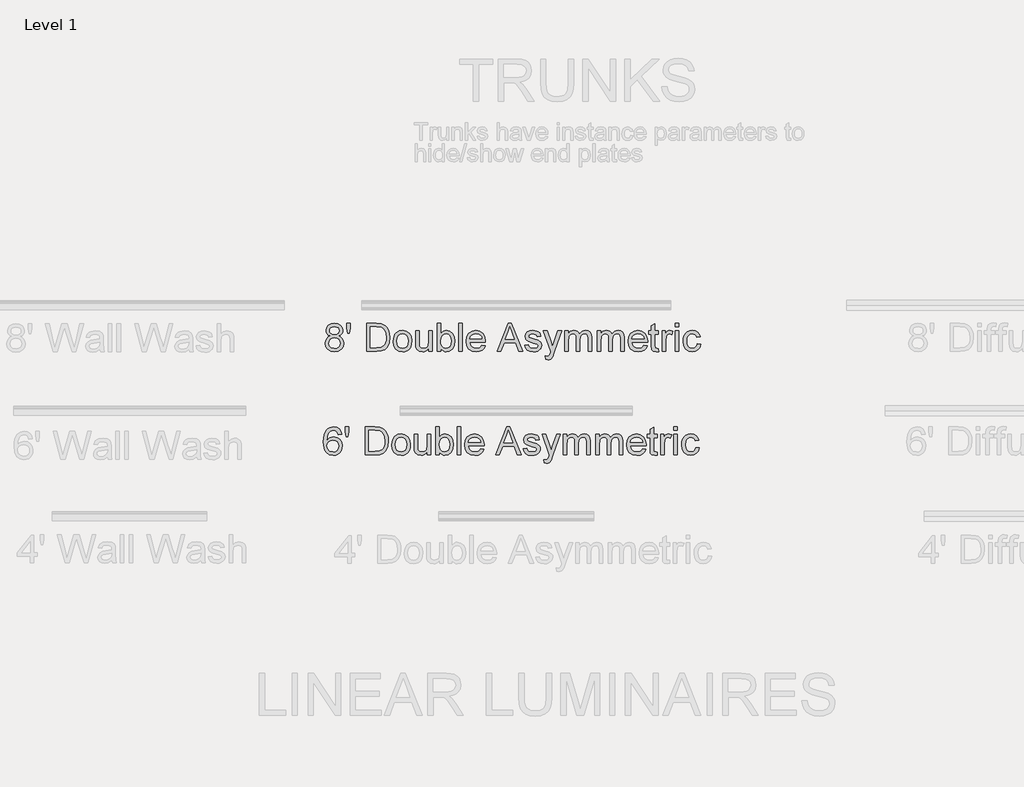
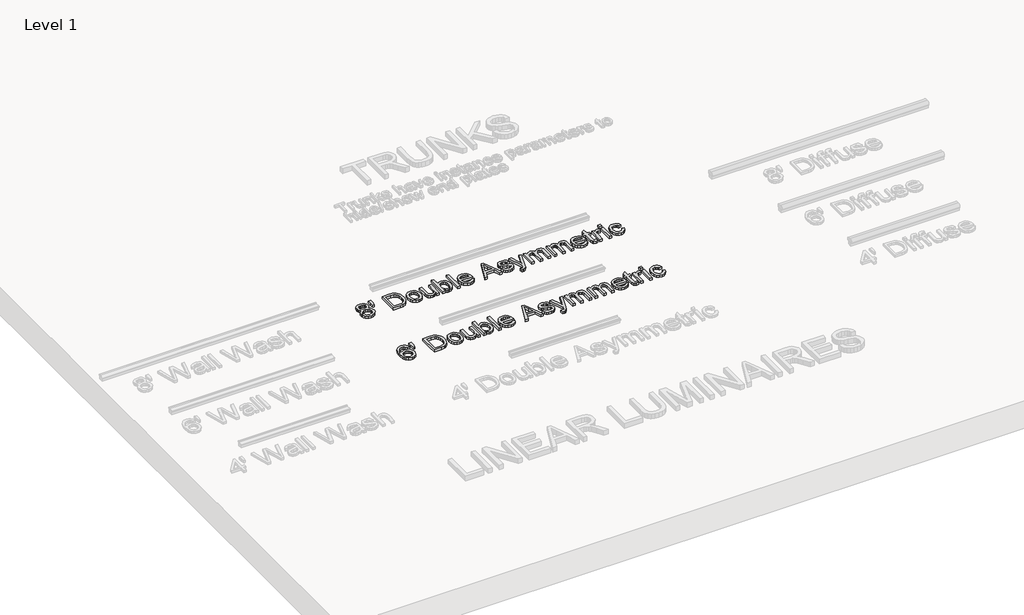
# One storey, part 3 of 9: 2 proxies.
"""IFC4 building model written with IfcOpenShell, lengths in millimetres."""

import ifcopenshell
import ifcopenshell.guid

model = None  # the IFC model being written
_history = None  # IfcOwnerHistory: only IFC2X3 demands one
_inside = {}  # id of a spatial element -> (the spatial element, [elements in it])
_under = {}  # id of a project, library or spatial element -> (it, [spatial elements below it])
_declared = {}  # id of a project -> (the project, [libraries it declares])
_typed = {}  # id of a type object -> (the type object, [elements of that type])
_made_of = {}  # id of a material, layer set ... -> (it, [elements and type objects made of it])


def new_model(schema):
    """Start an empty IFC model of exactly this schema.

    Asked for "IFC4X3", IfcOpenShell would pick the latest addendum, in which some entities
    have other attributes; the version numbers below select the first issue.
    IFC2X3 requires an IfcOwnerHistory on every rooted entity: one is made here for all.
    """
    global model, _history
    if schema == "IFC4X3":
        model = ifcopenshell.file(schema_version=(4, 3, 0, 0))
    else:
        model = ifcopenshell.file(schema=schema)
    _inside.clear()
    _under.clear()
    _declared.clear()
    _typed.clear()
    _made_of.clear()
    _history = None
    if model.schema == "IFC2X3":
        org = make("IfcOrganization", Name="unknown")
        user = make(
            "IfcPersonAndOrganization",
            ThePerson=make("IfcPerson", FamilyName="unknown"),
            TheOrganization=org,
        )
        app = make(
            "IfcApplication",
            ApplicationDeveloper=org,
            Version="unknown",
            ApplicationFullName="unknown",
            ApplicationIdentifier="unknown",
        )
        _history = make(
            "IfcOwnerHistory",
            OwningUser=user,
            OwningApplication=app,
            ChangeAction="ADDED",
            CreationDate=0,
        )
    return model


def make(cls, **values):
    """One entity of the class cls with the attributes given. An attribute that is None is left unset."""
    return model.create_entity(
        cls, **{name: value for name, value in values.items() if value is not None}
    )


def rooted(cls, **values):
    """An entity with a GlobalId (a new one), such as an element, a storey or a relation."""
    return make(cls, GlobalId=ifcopenshell.guid.new(), OwnerHistory=_history, **values)


def si_unit(unit_type, name, prefix=None):
    """IfcSIUnit, for example si_unit("LENGTHUNIT", "METRE", prefix="MILLI")."""
    return make("IfcSIUnit", UnitType=unit_type, Prefix=prefix, Name=name)


def assignment(units):
    """IfcUnitAssignment: the units of a project."""
    return None if units is None else make("IfcUnitAssignment", Units=units)


def point(xyz):
    """IfcCartesianPoint."""
    return None if xyz is None else make("IfcCartesianPoint", Coordinates=xyz)


def direction(xyz):
    """IfcDirection."""
    return None if xyz is None else make("IfcDirection", DirectionRatios=xyz)


def frame(location, z_axis=None, x_axis=None):
    """IfcAxis2Placement3D, a coordinate frame: its origin and axes. An axis left out is left unset."""
    return make(
        "IfcAxis2Placement3D",
        Location=point(location),
        Axis=direction(z_axis),
        RefDirection=direction(x_axis),
    )


def origin():
    """The frame at (0, 0, 0) with its axes left unset."""
    return frame((0.0, 0.0, 0.0))


def origin_with_axes():
    """The frame at (0, 0, 0) with the z axis (0, 0, 1) and the x axis (1, 0, 0) written out."""
    return frame((0.0, 0.0, 0.0), z_axis=(0.0, 0.0, 1.0), x_axis=(1.0, 0.0, 0.0))


def place(relative_to, where):
    """IfcLocalPlacement: puts the frame where relative to a parent placement (None: the world)."""
    return make(
        "IfcLocalPlacement", PlacementRelTo=relative_to, RelativePlacement=where
    )


def context(
    kind, dimensions, precision=None, world=None, true_north=None, identifier=None
):
    """IfcGeometricRepresentationContext, for example the 3D "Model" context."""
    return make(
        "IfcGeometricRepresentationContext",
        ContextIdentifier=identifier,
        ContextType=kind,
        CoordinateSpaceDimension=dimensions,
        Precision=precision,
        WorldCoordinateSystem=world,
        TrueNorth=true_north,
    )


def project(units=None, contexts=None):
    """IfcProject with its units and contexts."""
    return rooted(
        "IfcProject",
        Name="project",
        RepresentationContexts=contexts,
        UnitsInContext=assignment(units),
    )


def spatial(cls, under=None, at=None, **own):
    """A site, building, storey or space (cls), placed at a placement, below another one or the project."""
    s = rooted(cls, ObjectPlacement=at, **own)
    if under is not None:
        _under.setdefault(under.id(), (under, []))[1].append(s)
    return s


def polyline(points):
    """IfcPolyline through the points."""
    return make("IfcPolyline", Points=[point(p) for p in points])


def outline(outer, holes=None, kind="AREA"):
    """IfcArbitraryClosedProfileDef: a profile drawn as a closed curve; with holes, ...WithVoids."""
    if holes is None:
        return make("IfcArbitraryClosedProfileDef", ProfileType=kind, OuterCurve=outer)
    return make(
        "IfcArbitraryProfileDefWithVoids",
        ProfileType=kind,
        OuterCurve=outer,
        InnerCurves=holes,
    )


def extrude(swept, where, along, depth):
    """IfcExtrudedAreaSolid: the profile swept, set in the frame where, extruded along a direction by depth."""
    return make(
        "IfcExtrudedAreaSolid",
        SweptArea=swept,
        Position=where,
        ExtrudedDirection=direction(along),
        Depth=depth,
    )


def shape(context_of_items, identifier, shape_type, items):
    """IfcShapeRepresentation: the items that make up one representation, for example the "Body"."""
    return make(
        "IfcShapeRepresentation",
        ContextOfItems=context_of_items,
        RepresentationIdentifier=identifier,
        RepresentationType=shape_type,
        Items=items,
    )


def made_of(thing, what):
    """Note that an element or type object is made of a material, layer set ...; save() writes the relation."""
    if what is not None:
        _made_of.setdefault(what.id(), (what, []))[1].append(thing)
    return thing


def element(
    cls,
    number,
    at=None,
    inside=None,
    cuts=None,
    type_object=None,
    material=None,
    context=None,
    identifier="Body",
    shape_type=None,
    held_by="IfcProductDefinitionShape",
    body=None,
    shapes=None,
    **own,
):
    """One element of the class cls, such as IfcWall. Its Tag is "e" and its number.

    at: its placement. inside: the storey or other place that contains it. cuts: it is an
    opening in that element (IfcRelVoidsElement). A single representation is given by context,
    identifier, shape_type and body (its items); several are given by shapes. held_by: the class
    of the entity that holds the representations. save() writes the other relations.
    """
    e = rooted(cls, Tag="e%d" % number, ObjectPlacement=at, **own)
    if body is not None:
        shapes = [shape(context, identifier, shape_type, body)]
    if shapes is not None:
        e.Representation = make(held_by, Representations=shapes)
    if inside is not None:
        _inside.setdefault(inside.id(), (inside, []))[1].append(e)
    if cuts is not None:
        rooted(
            "IfcRelVoidsElement", RelatingBuildingElement=cuts, RelatedOpeningElement=e
        )
    if type_object is not None:
        _typed.setdefault(type_object.id(), (type_object, []))[1].append(e)
    return made_of(e, material)


def aggregate(whole, parts):
    """IfcRelAggregates: a whole, such as a stair, and the parts it consists of."""
    return rooted("IfcRelAggregates", RelatingObject=whole, RelatedObjects=parts)


def save(model, path):
    """Write the relations noted so far, then the file.

    IfcRelAggregates (storeys below a building ...), IfcRelContainedInSpatialStructure (elements
    in a storey), IfcRelDefinesByType, IfcRelAssociatesMaterial and IfcRelDeclares: one each for
    every whole, place, type object, material and project.
    """
    for whole, parts in _under.values():
        aggregate(whole, parts)
    for where, things in _inside.values():
        rooted(
            "IfcRelContainedInSpatialStructure",
            RelatedElements=things,
            RelatingStructure=where,
        )
    for kind, things in _typed.values():
        rooted("IfcRelDefinesByType", RelatedObjects=things, RelatingType=kind)
    for what, things in _made_of.values():
        rooted("IfcRelAssociatesMaterial", RelatedObjects=things, RelatingMaterial=what)
    for by, libraries in _declared.values():
        rooted("IfcRelDeclares", RelatingContext=by, RelatedDefinitions=libraries)
    model.write(path)


model = new_model("IFC4")

# Units and contexts
model_context = context("Model", 3, world=origin())
ifc_project = project(units=[si_unit("LENGTHUNIT", "METRE", prefix="MILLI")], contexts=[model_context])

# Site, building, storey
site = spatial("IfcSite", under=ifc_project)
building = spatial("IfcBuilding", under=site)
storey = spatial("IfcBuildingStorey", under=building, Name="Level 1", Elevation=0.0)

# Proxies
placement = place(None, origin())
element("IfcBuildingElementProxy", 1, Name="8\"", ObjectType="8\"", at=placement, inside=storey, context=model_context, shape_type="SweptSolid", body=[
    extrude(outline(polyline([(-9088.0665134, 7557.6503784), (-9101.6552918, 7564.3425265), (-9111.1916028, 7573.414105), (-9116.8241608, 7584.6792209), (-9118.7016801, 7597.9519812), (-9114.6120341, 7617.7929609), (-9102.3430959, 7634.1887237), (-9083.270474, 7645.1935894), (-9058.7697763, 7648.8618779), (-9034.1203643, 7645.1068393), (-9014.799885, 7633.8417234), (-9002.3078753, 7617.1857104), (-8998.143872, 7597.2579807), (-8999.9966056, 7584.4127742), (-9005.5548064, 7573.3397478), (-9014.8804386, 7564.3239372), (-9028.0354667, 7557.6503784), (-9012.4142581, 7549.6012114), (-9001.0438029, 7537.7474344), (-8994.1099939, 7522.6591191), (-8991.7987242, 7504.9063374), (-8996.3840849, 7480.6411042), (-9010.1401671, 7460.5894458), (-9031.3815407, 7447.1307924), (-9058.4227761, 7442.6445747), (-9085.4640114, 7447.1493817), (-9106.7053851, 7460.663803), (-9120.4614672, 7480.9075509), (-9125.0468279, 7505.6003379), (-9122.6426117, 7524.0409237), (-9115.4299633, 7539.2097926), (-9103.7806685, 7550.5864444), (-9088.0665134, 7557.6503784)]), holes=[polyline([(-9093.3210889, 7597.2084092), (-9091.0717836, 7586.1291863), (-9084.3238676, 7577.2806794), (-9073.2756269, 7571.4808177), (-9058.1253473, 7569.5475305), (-9043.3282643, 7571.4684249), (-9032.4473273, 7577.2311079), (-9025.7551792, 7585.782186), (-9023.5244632, 7596.0682654), (-9025.8295364, 7606.7447202), (-9032.7447561, 7615.5746378), (-9043.7744075, 7621.5046245), (-9058.4227761, 7623.4812868), (-9073.1640911, 7621.5479996), (-9084.1751532, 7615.7481379), (-9091.034605, 7607.2466313), (-9093.3210889, 7597.2084092)]), polyline([(-9099.6662367, 7506.4926243), (-9095.4278763, 7487.3828238), (-9089.5598539, 7479.1849424), (-9080.4325075, 7473.0814555), (-9058.2244902, 7468.0251658), (-9040.9488339, 7470.6834358), (-9027.9858952, 7478.6582455), (-9019.8809604, 7490.7350942), (-9017.1793154, 7505.6994809), (-9019.9677104, 7520.9179213), (-9028.3328955, 7533.2612166), (-9041.593263, 7541.4405087), (-9059.0672051, 7544.1669394), (-9076.1012005, 7541.4776873), (-9088.9340141, 7533.409931), (-9096.9831811, 7521.3021001), (-9099.6662367, 7506.4926243)])]), origin_with_axes(), (0.0, 0.0, 1.0), 25.4),
    extrude(outline(polyline([(-8963.8899882, 7575.8926783), (-8969.590707, 7614.4097083), (-8969.590707, 7648.8618779), (-8944.2101158, 7648.8618779), (-8944.2101158, 7614.4097083), (-8950.1586918, 7575.8926783), (-8963.8899882, 7575.8926783)])), origin_with_axes(), (0.0, 0.0, 1.0), 25.4),
    extrude(outline(polyline([(-8826.8248816, 7445.8171486), (-8826.8248816, 7648.8618779), (-8756.7803986, 7648.8618779), (-8720.5436561, 7645.9371614), (-8704.3585721, 7640.298407), (-8690.7016329, 7631.4127215), (-8676.6605148, 7615.9464238), (-8666.6594713, 7596.7126945), (-8660.6737167, 7574.0833198), (-8658.6784651, 7548.4300855), (-8664.081755, 7507.4592679), (-8677.9617658, 7477.8898878), (-8696.5014945, 7459.4740878), (-8720.7667277, 7449.2871513), (-8753.4095388, 7445.8171486), (-8826.8248816, 7445.8171486)]), holes=[polyline([(-8801.4442904, 7471.1977397), (-8756.5325412, 7471.1977397), (-8723.8649444, 7474.8660283), (-8705.0277869, 7485.2264649), (-8696.2102622, 7496.2127413), (-8689.5862749, 7510.433556), (-8685.4408609, 7527.9508732), (-8684.0590563, 7548.8266573), (-8686.7668977, 7576.4875359), (-8694.8904218, 7596.9109804), (-8706.8929133, 7610.9397056), (-8721.2376566, 7619.4164265), (-8757.2265418, 7623.4812868), (-8801.4442904, 7623.4812868), (-8801.4442904, 7471.1977397)])]), origin_with_axes(), (0.0, 0.0, 1.0), 25.4),
    extrude(outline(polyline([(-8633.2978739, 7520.3726351), (-8627.8078339, 7556.3243417), (-8620.945284, 7570.2942008), (-8611.337714, 7581.593397), (-8590.9886267, 7593.973871), (-8566.6242506, 7598.1006956), (-8539.9609977, 7593.0753881), (-8518.6638562, 7577.9994657), (-8504.7032917, 7554.0626435), (-8500.0497703, 7522.4546368), (-8502.1069862, 7496.8137954), (-8508.2786338, 7477.2950302), (-8518.3850167, 7462.6776438), (-8532.2464382, 7451.7409389), (-8548.7103617, 7444.9186657), (-8566.6242506, 7442.6445747), (-8593.6097181, 7447.6512928), (-8614.8820739, 7462.6714474), (-8628.6939239, 7487.1101807), (-8633.2978739, 7520.3726351)]), holes=[polyline([(-8607.9172828, 7520.4222066), (-8604.9801733, 7497.452028), (-8596.168845, 7481.0872474), (-8582.9084776, 7471.2906862), (-8566.6242506, 7468.0251658), (-8550.4143809, 7471.3092755), (-8537.1787992, 7481.1616046), (-8528.3674709, 7497.7432604), (-8525.4303614, 7521.2153501), (-8528.3860602, 7543.5163139), (-8537.2531564, 7559.6580228), (-8550.5073274, 7569.454584), (-8566.6242506, 7572.7201044), (-8582.9084776, 7569.4669769), (-8596.168845, 7559.7075943), (-8604.9801733, 7543.3799923), (-8607.9172828, 7520.4222066)])]), origin_with_axes(), (0.0, 0.0, 1.0), 25.4),
    extrude(outline(polyline([(-8376.3193883, 7445.8171486), (-8376.3193883, 7471.4455971), (-8385.5025026, 7458.8451498), (-8396.1975466, 7449.8448303), (-8408.4045204, 7444.4446386), (-8422.1234239, 7442.6445747), (-8445.9920854, 7447.7008643), (-8462.4498125, 7460.3911599), (-8470.0094612, 7479.079603), (-8471.4966052, 7502.6756214), (-8471.4966052, 7594.9281217), (-8446.116014, 7594.9281217), (-8446.116014, 7514.6223449), (-8444.5792985, 7488.7460391), (-8440.8800278, 7480.1144074), (-8434.5410765, 7473.5523844), (-8415.6295617, 7468.0251658), (-8394.4377595, 7473.6763131), (-8385.9920208, 7480.3498719), (-8380.4338201, 7489.0682536), (-8376.3193883, 7517.3487756), (-8376.3193883, 7594.9281217), (-8350.9387971, 7594.9281217), (-8350.9387971, 7445.8171486), (-8376.3193883, 7445.8171486)])), origin_with_axes(), (0.0, 0.0, 1.0), 25.4),
    extrude(outline(polyline([(-8290.6598931, 7445.8171486), (-8316.0404843, 7445.8171486), (-8316.0404843, 7648.8618779), (-8290.6598931, 7648.8618779), (-8290.6598931, 7573.5628194), (-8272.8885221, 7591.9662265), (-8262.3855675, 7596.5670783), (-8250.8044335, 7598.1006956), (-8225.3742709, 7592.573477), (-8205.644827, 7577.0328221), (-8193.5246033, 7552.8667318), (-8189.1375284, 7522.6033512), (-8193.6795141, 7488.7212534), (-8207.3054711, 7463.5141623), (-8227.3013617, 7447.8619716), (-8250.9531479, 7442.6445747), (-8262.9153626, 7444.3269063), (-8273.5205583, 7449.3739013), (-8282.7687352, 7457.7855597), (-8290.6598931, 7469.5618813), (-8290.6598931, 7445.8171486)]), holes=[polyline([(-8290.6598931, 7521.4136359), (-8288.9248917, 7500.2466195), (-8283.7198877, 7485.9204655), (-8270.4223416, 7472.4989907), (-8253.1342925, 7468.0251658), (-8238.4859239, 7471.3216684), (-8225.9691285, 7481.2111761), (-8217.3808718, 7497.6317246), (-8214.5181196, 7520.5213495), (-8217.2631396, 7543.7455819), (-8225.4981996, 7559.9802374), (-8237.6246197, 7569.5351377), (-8252.0437202, 7572.7201044), (-8266.6920887, 7569.4236019), (-8279.2088842, 7559.5340942), (-8287.7971409, 7543.4109745), (-8290.6598931, 7521.4136359)])]), origin_with_axes(), (0.0, 0.0, 1.0), 25.4),
    extrude(outline(polyline([(-8160.5843633, 7445.8171486), (-8160.5843633, 7648.8618779), (-8135.2037722, 7648.8618779), (-8135.2037722, 7445.8171486), (-8160.5843633, 7445.8171486)])), origin_with_axes(), (0.0, 0.0, 1.0), 25.4),
    extrude(outline(polyline([(-7992.7353756, 7490.2331831), (-7967.8504991, 7487.0606092), (-7976.8167382, 7468.3102018), (-7991.1243029, 7454.2938694), (-8010.4509787, 7445.5568984), (-8034.474551, 7442.6445747), (-8064.2546098, 7447.6698821), (-8087.1690205, 7462.7458046), (-8101.7802105, 7486.8933055), (-8106.6506071, 7519.1333485), (-8101.730639, 7552.4577672), (-8095.5806788, 7565.9690902), (-8086.9707346, 7577.3798223), (-8064.3661456, 7592.9204773), (-8035.9121235, 7598.1006956), (-8008.3441913, 7592.9328702), (-7986.3158706, 7577.4293938), (-7971.8719844, 7552.5569102), (-7967.0573557, 7519.2820629), (-7967.2060701, 7512.4412004), (-8081.2700159, 7512.4412004), (-8076.8767447, 7493.4429356), (-8066.6712189, 7479.4761747), (-8051.9422967, 7470.8879181), (-8033.9788363, 7468.0251658), (-8009.0939598, 7473.3293128), (-7999.8488812, 7480.2073539), (-7992.7353756, 7490.2331831)]), holes=[polyline([(-8081.2700159, 7537.8217916), (-7992.4379468, 7537.8217916), (-7995.8707709, 7551.2308734), (-8002.6000976, 7560.8229523), (-8017.3971805, 7569.7458164), (-8036.0112664, 7572.7201044), (-8053.119619, 7570.3468704), (-8067.2660765, 7563.2271685), (-8077.0998163, 7552.1293563), (-8081.2700159, 7537.8217916)])]), origin_with_axes(), (0.0, 0.0, 1.0), 25.4),
    extrude(outline(polyline([(-7882.835433, 7445.8171486), (-7801.7860842, 7648.8618779), (-7780.1729246, 7648.8618779), (-7699.1235758, 7445.8171486), (-7725.9417395, 7445.8171486), (-7749.1907576, 7509.2686265), (-7832.8178227, 7509.2686265), (-7856.0172693, 7445.8171486), (-7882.835433, 7445.8171486)]), holes=[polyline([(-7823.4983868, 7534.6492177), (-7758.460622, 7534.6492177), (-7776.7524933, 7584.5676851), (-7790.9795044, 7623.4812868), (-7803.6202285, 7588.9299742), (-7823.4983868, 7534.6492177)])]), origin_with_axes(), (0.0, 0.0, 1.0), 25.4),
    extrude(outline(polyline([(-7684.6982789, 7490.2331831), (-7659.3176877, 7493.405757), (-7655.3147917, 7482.5496057), (-7647.56925, 7474.5685995), (-7636.031491, 7469.6610243), (-7620.6519433, 7468.0251658), (-7605.4582886, 7469.5247027), (-7594.7756375, 7474.0233134), (-7588.4552754, 7480.5419613), (-7586.3484881, 7488.10161), (-7588.4676683, 7494.5706865), (-7594.8252089, 7499.5030475), (-7620.9493721, 7506.7404817), (-7659.1689733, 7519.1581342), (-7668.8416058, 7525.3979426), (-7675.849772, 7533.6577883), (-7681.525705, 7554.1308043), (-7676.96513, 7573.042319), (-7664.5226917, 7587.4924016), (-7648.3871792, 7595.0024789), (-7626.5509479, 7598.1006956), (-7595.6679239, 7593.1187632), (-7584.117772, 7587.2569372), (-7576.0376229, 7579.6353241), (-7567.3130447, 7556.8572349), (-7592.6936359, 7553.684661), (-7595.8971919, 7561.6718637), (-7602.2361433, 7567.6886005), (-7624.5680892, 7572.7201044), (-7639.1421006, 7571.5179963), (-7648.8581081, 7567.9116721), (-7654.3233624, 7562.7066681), (-7656.1451138, 7556.7085205), (-7653.1212543, 7549.3223719), (-7643.6531041, 7543.7207962), (-7621.7920871, 7538.3175062), (-7584.5391295, 7526.3707827), (-7567.2386875, 7512.8377721), (-7562.5355945, 7502.8863001), (-7560.9678969, 7490.7784693), (-7562.8082376, 7478.2616738), (-7568.3292598, 7466.4884504), (-7577.3202846, 7456.3820675), (-7589.5706334, 7448.8657938), (-7604.3677164, 7444.1998794), (-7620.9989436, 7442.6445747), (-7646.5902135, 7445.6436484), (-7665.2662637, 7454.6408697), (-7677.7334877, 7469.5370956), (-7684.6982789, 7490.2331831)])), origin_with_axes(), (0.0, 0.0, 1.0), 25.4),
    extrude(outline(polyline([(-7532.4147318, 7388.7108184), (-7535.5873057, 7413.1495517), (-7522.6987243, 7410.9188357), (-7510.6528578, 7413.7196236), (-7503.2667092, 7421.5271297), (-7496.3267038, 7440.2155728), (-7494.3438451, 7446.3624347), (-7548.2776013, 7594.9281217), (-7521.5090091, 7594.9281217), (-7492.9062725, 7512.1437716), (-7482.9424076, 7479.0300315), (-7472.9785427, 7508.2771972), (-7443.5826627, 7594.9281217), (-7417.0123563, 7594.9281217), (-7468.9136824, 7442.2480029), (-7482.3971215, 7409.1342629), (-7497.1198472, 7391.2389633), (-7506.2038186, 7386.9634242), (-7516.8988626, 7385.5382445), (-7532.4147318, 7388.7108184)])), origin_with_axes(), (0.0, 0.0, 1.0), 25.4),
    extrude(outline(polyline([(-7395.9940543, 7445.8171486), (-7395.9940543, 7594.9281217), (-7370.6134631, 7594.9281217), (-7370.6134631, 7570.3902455), (-7362.9794572, 7581.6615578), (-7353.1643067, 7590.4914754), (-7341.502619, 7596.1983905), (-7328.3290016, 7598.1006956), (-7314.2135264, 7596.1612119), (-7302.898839, 7590.342761), (-7294.4469039, 7581.0295216), (-7288.9196853, 7568.6056727), (-7279.6684102, 7581.5097452), (-7269.1158841, 7590.7269399), (-7257.2621071, 7596.2572567), (-7244.107079, 7598.1006956), (-7225.0282606, 7595.0334611), (-7210.9189817, 7585.8317575), (-7202.2005999, 7570.2477275), (-7199.2944727, 7548.0335138), (-7199.2944727, 7445.8171486), (-7224.6750639, 7445.8171486), (-7224.6750639, 7537.127791), (-7227.0297085, 7558.3195932), (-7235.5560009, 7568.7543871), (-7250.055655, 7572.7201044), (-7263.8055407, 7570.1795667), (-7275.0148887, 7562.5579537), (-7282.4691981, 7549.3347648), (-7284.9539679, 7529.9894998), (-7284.9539679, 7445.8171486), (-7310.3345591, 7445.8171486), (-7310.3345591, 7539.9533647), (-7311.8031138, 7554.3043044), (-7316.2087779, 7564.5408123), (-7323.9605161, 7570.6752814), (-7335.4672929, 7572.7201044), (-7354.2548789, 7567.267243), (-7361.690599, 7560.5503092), (-7366.7468887, 7551.3052306), (-7370.6134631, 7521.0170642), (-7370.6134631, 7445.8171486), (-7395.9940543, 7445.8171486)])), origin_with_axes(), (0.0, 0.0, 1.0), 25.4),
    extrude(outline(polyline([(-7161.2235859, 7445.8171486), (-7161.2235859, 7594.9281217), (-7135.8429948, 7594.9281217), (-7135.8429948, 7570.3902455), (-7128.2089888, 7581.6615578), (-7118.3938383, 7590.4914754), (-7106.7321507, 7596.1983905), (-7093.5585333, 7598.1006956), (-7079.443058, 7596.1612119), (-7068.1283707, 7590.342761), (-7059.6764355, 7581.0295216), (-7054.1492169, 7568.6056727), (-7044.8979419, 7581.5097452), (-7034.3454158, 7590.7269399), (-7022.4916387, 7596.2572567), (-7009.3366106, 7598.1006956), (-6990.2577922, 7595.0334611), (-6976.1485134, 7585.8317575), (-6967.4301316, 7570.2477275), (-6964.5240043, 7548.0335138), (-6964.5240043, 7445.8171486), (-6989.9045955, 7445.8171486), (-6989.9045955, 7537.127791), (-6992.2592402, 7558.3195932), (-7000.7855326, 7568.7543871), (-7015.2851867, 7572.7201044), (-7029.0350724, 7570.1795667), (-7040.2444204, 7562.5579537), (-7047.6987298, 7549.3347648), (-7050.1834996, 7529.9894998), (-7050.1834996, 7445.8171486), (-7075.5640907, 7445.8171486), (-7075.5640907, 7539.9533647), (-7077.0326454, 7554.3043044), (-7081.4383096, 7564.5408123), (-7089.1900478, 7570.6752814), (-7100.6968246, 7572.7201044), (-7119.4844106, 7567.267243), (-7126.9201307, 7560.5503092), (-7131.9764203, 7551.3052306), (-7135.8429948, 7521.0170642), (-7135.8429948, 7445.8171486), (-7161.2235859, 7445.8171486)])), origin_with_axes(), (0.0, 0.0, 1.0), 25.4),
    extrude(outline(polyline([(-6822.0556078, 7490.2331831), (-6797.1707313, 7487.0606092), (-6806.1369704, 7468.3102018), (-6820.4445351, 7454.2938694), (-6839.7712109, 7445.5568984), (-6863.7947831, 7442.6445747), (-6893.574842, 7447.6698821), (-6916.4892527, 7462.7458046), (-6931.1004426, 7486.8933055), (-6935.9708393, 7519.1333485), (-6931.0508712, 7552.4577672), (-6924.900911, 7565.9690902), (-6916.2909668, 7577.3798223), (-6893.6863778, 7592.9204773), (-6865.2323557, 7598.1006956), (-6837.6644235, 7592.9328702), (-6815.6361028, 7577.4293938), (-6801.1922166, 7552.5569102), (-6796.3775878, 7519.2820629), (-6796.5263022, 7512.4412004), (-6910.5902481, 7512.4412004), (-6906.1969768, 7493.4429356), (-6895.991451, 7479.4761747), (-6881.2625289, 7470.8879181), (-6863.2990685, 7468.0251658), (-6838.414192, 7473.3293128), (-6829.1691133, 7480.2073539), (-6822.0556078, 7490.2331831)]), holes=[polyline([(-6910.5902481, 7537.8217916), (-6821.758179, 7537.8217916), (-6825.1910031, 7551.2308734), (-6831.9203298, 7560.8229523), (-6846.7174127, 7569.7458164), (-6865.3314986, 7572.7201044), (-6882.4398512, 7570.3468704), (-6896.5863086, 7563.2271685), (-6906.4200484, 7552.1293563), (-6910.5902481, 7537.8217916)])]), origin_with_axes(), (0.0, 0.0, 1.0), 25.4),
    extrude(outline(polyline([(-6717.0632404, 7466.984165), (-6713.8906665, 7445.0735766), (-6732.8765384, 7442.6445747), (-6754.1426978, 7446.8581494), (-6764.7509918, 7457.9125865), (-6767.8244228, 7486.7136089), (-6767.8244228, 7569.5475305), (-6786.8598661, 7569.5475305), (-6786.8598661, 7594.9281217), (-6767.8244228, 7594.9281217), (-6767.8244228, 7631.1648642), (-6742.4438316, 7646.0858758), (-6742.4438316, 7594.9281217), (-6717.0632404, 7594.9281217), (-6717.0632404, 7569.5475305), (-6742.4438316, 7569.5475305), (-6742.4438316, 7487.457181), (-6741.105402, 7474.3703136), (-6736.7678986, 7469.7353815), (-6728.1176776, 7468.0251658), (-6717.0632404, 7466.984165)])), origin_with_axes(), (0.0, 0.0, 1.0), 25.4),
    extrude(outline(polyline([(-6691.6826492, 7445.8171486), (-6691.6826492, 7594.9281217), (-6669.474632, 7594.9281217), (-6669.474632, 7572.8688188), (-6653.7109054, 7593.1931204), (-6637.8480359, 7598.1006956), (-6625.2073118, 7596.1426226), (-6612.3683018, 7590.2684038), (-6620.8450227, 7567.5151004), (-6638.6907509, 7572.7201044), (-6653.0416906, 7567.7133862), (-6662.1876263, 7553.8333754), (-6666.3020581, 7524.1896381), (-6666.3020581, 7445.8171486), (-6691.6826492, 7445.8171486)])), origin_with_axes(), (0.0, 0.0, 1.0), 25.4),
    extrude(outline(polyline([(-6596.5054323, 7623.4812868), (-6596.5054323, 7648.8618779), (-6571.1248412, 7648.8618779), (-6571.1248412, 7623.4812868), (-6596.5054323, 7623.4812868)])), origin_with_axes(), (0.0, 0.0, 1.0), 25.4),
    extrude(outline(polyline([(-6596.5054323, 7445.8171486), (-6596.5054323, 7594.9281217), (-6571.1248412, 7594.9281217), (-6571.1248412, 7445.8171486), (-6596.5054323, 7445.8171486)])), origin_with_axes(), (0.0, 0.0, 1.0), 25.4),
    extrude(outline(polyline([(-6437.8767375, 7499.7509048), (-6412.4961463, 7496.5783309), (-6419.5724733, 7474.0047241), (-6432.8700193, 7456.9459429), (-6451.137105, 7446.2199167), (-6473.1220506, 7442.6445747), (-6500.1199109, 7447.6327035), (-6521.2311595, 7462.5970902), (-6534.8571165, 7486.8809127), (-6539.3991022, 7519.827349), (-6537.4596186, 7542.4133487), (-6531.6411676, 7561.9878818), (-6521.8508028, 7577.7949834), (-6507.9955778, 7589.0786886), (-6491.4201185, 7595.8451938), (-6473.4690509, 7598.1006956), (-6452.023195, 7595.0024789), (-6434.8776638, 7585.7078288), (-6422.5777435, 7570.71246), (-6415.6687202, 7550.5120872), (-6441.0493114, 7547.3395133), (-6445.6532614, 7558.4125397), (-6452.8225349, 7566.3501709), (-6462.16056, 7571.127621), (-6473.2707651, 7572.7201044), (-6489.6727242, 7569.5847091), (-6502.6914308, 7560.1785232), (-6511.186741, 7543.9934392), (-6514.018511, 7520.5213495), (-6511.2487053, 7496.7332417), (-6502.9392881, 7480.4923898), (-6490.156046, 7471.1419718), (-6473.9647656, 7468.0251658), (-6460.8221304, 7469.9708459), (-6450.0465327, 7475.8078862), (-6442.2080445, 7485.685001), (-6437.8767375, 7499.7509048)])), origin_with_axes(), (0.0, 0.0, 1.0), 25.4),
])
element("IfcBuildingElementProxy", 2, Name="8\"", ObjectType="8\"", at=placement, inside=storey, context=model_context, shape_type="SweptSolid", body=[
    extrude(outline(polyline([(-9005.3885644, 6846.8178101), (-9030.7691556, 6843.6452362), (-9040.3860202, 6864.8122526), (-9051.8989934, 6872.7312945), (-9065.8161828, 6875.3709751), (-9088.7182007, 6869.2241132), (-9098.2545116, 6859.5143021), (-9106.0434284, 6846.1485953), (-9111.3042004, 6827.243277), (-9113.2560769, 6800.9146315), (-9103.0753368, 6812.7931943), (-9090.8745595, 6821.1645758), (-9077.3353525, 6826.127919), (-9063.1393236, 6827.7823667), (-9039.6920197, 6823.2589703), (-9020.0121472, 6809.6887812), (-9006.6650297, 6788.9555151), (-9002.2159905, 6762.9428877), (-9004.310385, 6744.7687485), (-9010.5935685, 6727.9206461), (-9020.5450405, 6713.6316707), (-9033.6443007, 6703.1349126), (-9049.2964914, 6696.6844254), (-9066.9067551, 6694.534263), (-9095.7015811, 6700.2349818), (-9118.6345811, 6717.3371379), (-9127.3854941, 6730.5851125), (-9133.6361463, 6747.5261614), (-9138.6366681, 6792.4874821), (-9137.248667, 6819.7610837), (-9133.0846637, 6843.0379857), (-9126.1446583, 6862.3181882), (-9116.4286508, 6877.6016912), (-9105.8978122, 6887.7297615), (-9093.6877402, 6894.9640975), (-9064.2298959, 6900.7515663), (-9041.9599143, 6897.1700278), (-9024.126579, 6886.4254123), (-9011.6345693, 6869.3604347), (-9005.3885644, 6846.8178101)]), holes=[polyline([(-9113.2560769, 6763.3394594), (-9107.381858, 6741.3545137), (-9091.7668459, 6725.3925013), (-9068.8896138, 6719.9148542), (-9052.1406543, 6722.7528207), (-9038.9732334, 6731.2667202), (-9030.4407446, 6744.6510163), (-9027.5965817, 6762.1001727), (-9030.403566, 6778.8491322), (-9038.824519, 6791.6199814), (-9052.2150115, 6799.706327), (-9069.9306146, 6802.4017755), (-9086.6547883, 6799.706327), (-9100.6401385, 6791.6199814), (-9110.1020923, 6779.1589539), (-9113.2560769, 6763.3394594)])]), origin_with_axes(), (0.0, 0.0, 1.0), 25.4),
    extrude(outline(polyline([(-8974.3072545, 6827.7823667), (-8980.0079732, 6866.2993966), (-8980.0079732, 6900.7515663), (-8954.6273821, 6900.7515663), (-8954.6273821, 6866.2993966), (-8960.5759581, 6827.7823667), (-8974.3072545, 6827.7823667)])), origin_with_axes(), (0.0, 0.0, 1.0), 25.4),
    extrude(outline(polyline([(-8837.2421479, 6697.7068369), (-8837.2421479, 6900.7515663), (-8767.1976648, 6900.7515663), (-8730.9609224, 6897.8268497), (-8714.7758383, 6892.1880954), (-8701.1188991, 6883.3024099), (-8687.0777811, 6867.8361121), (-8677.0767376, 6848.6023829), (-8671.0909829, 6825.9730081), (-8669.0957314, 6800.3197739), (-8674.4990213, 6759.3489563), (-8688.3790321, 6729.7795762), (-8706.9187608, 6711.3637761), (-8731.183994, 6701.1768396), (-8763.8268051, 6697.7068369), (-8837.2421479, 6697.7068369)]), holes=[polyline([(-8811.8615567, 6723.0874281), (-8766.9498075, 6723.0874281), (-8734.2822107, 6726.7557167), (-8715.4450531, 6737.1161533), (-8706.6275284, 6748.1024297), (-8700.0035411, 6762.3232443), (-8695.8581272, 6779.8405615), (-8694.4763225, 6800.7163456), (-8697.1841639, 6828.3772243), (-8705.3076881, 6848.8006687), (-8717.3101796, 6862.8293939), (-8731.6549229, 6871.3061148), (-8767.643808, 6875.3709751), (-8811.8615567, 6875.3709751), (-8811.8615567, 6723.0874281)])]), origin_with_axes(), (0.0, 0.0, 1.0), 25.4),
    extrude(outline(polyline([(-8643.7151402, 6772.2623235), (-8638.2251002, 6808.21403), (-8631.3625502, 6822.1838891), (-8621.7549803, 6833.4830854), (-8601.405893, 6845.8635593), (-8577.0415169, 6849.990384), (-8550.378264, 6844.9650765), (-8529.0811225, 6829.889154), (-8515.120558, 6805.9523318), (-8510.4670365, 6774.3443251), (-8512.5242524, 6748.7034837), (-8518.6959001, 6729.1847186), (-8528.8022829, 6714.5673322), (-8542.6637044, 6703.6306272), (-8559.127628, 6696.8083541), (-8577.0415169, 6694.534263), (-8604.0269843, 6699.5409812), (-8625.2993402, 6714.5611358), (-8639.1111902, 6738.999869), (-8643.7151402, 6772.2623235)]), holes=[polyline([(-8618.334549, 6772.311895), (-8615.3974396, 6749.3417164), (-8606.5861113, 6732.9769358), (-8593.3257439, 6723.1803746), (-8577.0415169, 6719.9148542), (-8560.8316472, 6723.1989639), (-8547.5960654, 6733.051293), (-8538.7847371, 6749.6329487), (-8535.8476277, 6773.1050384), (-8538.8033264, 6795.4060022), (-8547.6704226, 6811.5477112), (-8560.9245937, 6821.3442724), (-8577.0415169, 6824.6097928), (-8593.3257439, 6821.3566653), (-8606.5861113, 6811.5972827), (-8615.3974396, 6795.2696807), (-8618.334549, 6772.311895)])]), origin_with_axes(), (0.0, 0.0, 1.0), 25.4),
    extrude(outline(polyline([(-8386.7366546, 6697.7068369), (-8386.7366546, 6723.3352854), (-8395.9197689, 6710.7348381), (-8406.6148129, 6701.7345186), (-8418.8217867, 6696.3343269), (-8432.5406902, 6694.534263), (-8456.4093516, 6699.5905527), (-8472.8670787, 6712.2808483), (-8480.4267275, 6730.9692914), (-8481.9138715, 6754.5653097), (-8481.9138715, 6846.8178101), (-8456.5332803, 6846.8178101), (-8456.5332803, 6766.5120333), (-8454.9965648, 6740.6357275), (-8451.2972941, 6732.0040957), (-8444.9583427, 6725.4420728), (-8426.046828, 6719.9148542), (-8404.8550258, 6725.5660015), (-8396.4092871, 6732.2395602), (-8390.8510863, 6740.957942), (-8386.7366546, 6769.238464), (-8386.7366546, 6846.8178101), (-8361.3560634, 6846.8178101), (-8361.3560634, 6697.7068369), (-8386.7366546, 6697.7068369)])), origin_with_axes(), (0.0, 0.0, 1.0), 25.4),
    extrude(outline(polyline([(-8301.0771594, 6697.7068369), (-8326.4577505, 6697.7068369), (-8326.4577505, 6900.7515663), (-8301.0771594, 6900.7515663), (-8301.0771594, 6825.4525077), (-8283.3057884, 6843.8559149), (-8272.8028338, 6848.4567667), (-8261.2216998, 6849.990384), (-8235.7915372, 6844.4631654), (-8216.0620932, 6828.9225104), (-8203.9418695, 6804.7564202), (-8199.5547947, 6774.4930395), (-8204.0967804, 6740.6109417), (-8217.7227374, 6715.4038507), (-8237.7186279, 6699.7516599), (-8261.3704142, 6694.534263), (-8273.3326289, 6696.2165947), (-8283.9378246, 6701.2635897), (-8293.1860014, 6709.675248), (-8301.0771594, 6721.4515697), (-8301.0771594, 6697.7068369)]), holes=[polyline([(-8301.0771594, 6773.3033243), (-8299.342158, 6752.1363078), (-8294.137154, 6737.8101538), (-8280.8396079, 6724.3886791), (-8263.5515588, 6719.9148542), (-8248.9031902, 6723.2113568), (-8236.3863948, 6733.1008645), (-8227.7981381, 6749.5214129), (-8224.9353859, 6772.4110379), (-8227.6804058, 6795.6352702), (-8235.9154658, 6811.8699257), (-8248.041886, 6821.424826), (-8262.4609865, 6824.6097928), (-8277.109355, 6821.3132902), (-8289.6261505, 6811.4237825), (-8298.2144071, 6795.3006628), (-8301.0771594, 6773.3033243)])]), origin_with_axes(), (0.0, 0.0, 1.0), 25.4),
    extrude(outline(polyline([(-8171.0016296, 6697.7068369), (-8171.0016296, 6900.7515663), (-8145.6210384, 6900.7515663), (-8145.6210384, 6697.7068369), (-8171.0016296, 6697.7068369)])), origin_with_axes(), (0.0, 0.0, 1.0), 25.4),
    extrude(outline(polyline([(-8003.1526419, 6742.1228715), (-7978.2677654, 6738.9502976), (-7987.2340045, 6720.1998901), (-8001.5415692, 6706.1835578), (-8020.868245, 6697.4465867), (-8044.8918172, 6694.534263), (-8074.6718761, 6699.5595705), (-8097.5862868, 6714.635493), (-8112.1974767, 6738.7829939), (-8117.0678734, 6771.0230368), (-8112.1479053, 6804.3474556), (-8105.9979451, 6817.8587786), (-8097.3880009, 6829.2695107), (-8074.7834119, 6844.8101656), (-8046.3293898, 6849.990384), (-8018.7614576, 6844.8225585), (-7996.7331369, 6829.3190822), (-7982.2892507, 6804.4465985), (-7977.4746219, 6771.1717512), (-7977.6233363, 6764.3308888), (-8091.6872822, 6764.3308888), (-8087.2940109, 6745.332624), (-8077.0884851, 6731.3658631), (-8062.359563, 6722.7776064), (-8044.3961026, 6719.9148542), (-8019.5112261, 6725.2190012), (-8010.2661474, 6732.0970423), (-8003.1526419, 6742.1228715)]), holes=[polyline([(-8091.6872822, 6789.7114799), (-8002.8552131, 6789.7114799), (-8006.2880372, 6803.1205618), (-8013.0173639, 6812.7126407), (-8027.8144468, 6821.6355048), (-8046.4285327, 6824.6097928), (-8063.5368853, 6822.2365588), (-8077.6833427, 6815.1168568), (-8087.5170825, 6804.0190446), (-8091.6872822, 6789.7114799)])]), origin_with_axes(), (0.0, 0.0, 1.0), 25.4),
    extrude(outline(polyline([(-7893.2526993, 6697.7068369), (-7812.2033505, 6900.7515663), (-7790.5901908, 6900.7515663), (-7709.5408421, 6697.7068369), (-7736.3590058, 6697.7068369), (-7759.6080239, 6761.1583149), (-7843.2350889, 6761.1583149), (-7866.4345355, 6697.7068369), (-7893.2526993, 6697.7068369)]), holes=[polyline([(-7833.9156531, 6786.538906), (-7768.8778882, 6786.538906), (-7787.1697596, 6836.4573734), (-7801.3967707, 6875.3709751), (-7814.0374948, 6840.8196625), (-7833.9156531, 6786.538906)])]), origin_with_axes(), (0.0, 0.0, 1.0), 25.4),
    extrude(outline(polyline([(-7695.1155451, 6742.1228715), (-7669.734954, 6745.2954454), (-7665.732058, 6734.4392941), (-7657.9865162, 6726.4582879), (-7646.4487573, 6721.5507126), (-7631.0692096, 6719.9148542), (-7615.8755549, 6721.4143911), (-7605.1929038, 6725.9130017), (-7598.8725417, 6732.4316497), (-7596.7657543, 6739.9912984), (-7598.8849346, 6746.4603749), (-7605.2424752, 6751.3927358), (-7631.3666384, 6758.63017), (-7669.5862396, 6771.0478226), (-7679.2588721, 6777.287631), (-7686.2670382, 6785.5474767), (-7691.9429712, 6806.0204926), (-7687.3823963, 6824.9320073), (-7674.939958, 6839.38209), (-7658.8044455, 6846.8921673), (-7636.9682142, 6849.990384), (-7606.0851902, 6845.0084515), (-7594.5350383, 6839.1466255), (-7586.4548892, 6831.5250125), (-7577.730311, 6808.7469233), (-7603.1109021, 6805.5743494), (-7606.3144582, 6813.5615521), (-7612.6534096, 6819.5782889), (-7634.9853555, 6824.6097928), (-7649.5593668, 6823.4076847), (-7659.2753744, 6819.8013605), (-7664.7406286, 6814.5963564), (-7666.5623801, 6808.5982089), (-7663.5385206, 6801.2120603), (-7654.0703703, 6795.6104845), (-7632.2093533, 6790.2071946), (-7594.9563958, 6778.260471), (-7577.6559538, 6764.7274605), (-7572.9528608, 6754.7759885), (-7571.3851632, 6742.6681576), (-7573.2255039, 6730.1513622), (-7578.746526, 6718.3781387), (-7587.7375509, 6708.2717559), (-7599.9878997, 6700.7554822), (-7614.7849826, 6696.0895678), (-7631.4162099, 6694.534263), (-7657.0074798, 6697.5333368), (-7675.68353, 6706.5305581), (-7688.150754, 6721.426784), (-7695.1155451, 6742.1228715)])), origin_with_axes(), (0.0, 0.0, 1.0), 25.4),
    extrude(outline(polyline([(-7542.8319981, 6640.6005068), (-7546.004572, 6665.0392401), (-7533.1159905, 6662.8085241), (-7521.070124, 6665.609312), (-7513.6839754, 6673.416818), (-7506.74397, 6692.1052611), (-7504.7611113, 6698.2521231), (-7558.6948676, 6846.8178101), (-7531.9262753, 6846.8178101), (-7503.3235388, 6764.03346), (-7493.3596739, 6730.9197199), (-7483.395809, 6760.1668855), (-7453.999929, 6846.8178101), (-7427.4296226, 6846.8178101), (-7479.3309487, 6694.1376913), (-7492.8143878, 6661.0239512), (-7507.5371135, 6643.1286516), (-7516.6210848, 6638.8531126), (-7527.3161289, 6637.4279329), (-7542.8319981, 6640.6005068)])), origin_with_axes(), (0.0, 0.0, 1.0), 25.4),
    extrude(outline(polyline([(-7406.4113205, 6697.7068369), (-7406.4113205, 6846.8178101), (-7381.0307294, 6846.8178101), (-7381.0307294, 6822.2799338), (-7373.3967234, 6833.5512462), (-7363.5815729, 6842.3811638), (-7351.9198853, 6848.0880789), (-7338.7462679, 6849.990384), (-7324.6307926, 6848.0509003), (-7313.3161053, 6842.2324494), (-7304.8641701, 6832.91921), (-7299.3369515, 6820.495361), (-7290.0856765, 6833.3994336), (-7279.5331504, 6842.6166282), (-7267.6793733, 6848.146945), (-7254.5243452, 6849.990384), (-7235.4455268, 6846.9231494), (-7221.336248, 6837.7214458), (-7212.6178662, 6822.1374159), (-7209.711739, 6799.9232022), (-7209.711739, 6697.7068369), (-7235.0923301, 6697.7068369), (-7235.0923301, 6789.0174794), (-7237.4469748, 6810.2092816), (-7245.9732672, 6820.6440754), (-7260.4729213, 6824.6097928), (-7274.222807, 6822.0692551), (-7285.432155, 6814.447642), (-7292.8864644, 6801.2244532), (-7295.3712342, 6781.8791881), (-7295.3712342, 6697.7068369), (-7320.7518253, 6697.7068369), (-7320.7518253, 6791.843053), (-7322.2203801, 6806.1939927), (-7326.6260442, 6816.4305007), (-7334.3777824, 6822.5649698), (-7345.8845592, 6824.6097928), (-7364.6721452, 6819.1569314), (-7372.1078653, 6812.4399976), (-7377.1641549, 6803.194919), (-7381.0307294, 6772.9067526), (-7381.0307294, 6697.7068369), (-7406.4113205, 6697.7068369)])), origin_with_axes(), (0.0, 0.0, 1.0), 25.4),
    extrude(outline(polyline([(-7171.6408522, 6697.7068369), (-7171.6408522, 6846.8178101), (-7146.260261, 6846.8178101), (-7146.260261, 6822.2799338), (-7138.6262551, 6833.5512462), (-7128.8111046, 6842.3811638), (-7117.149417, 6848.0880789), (-7103.9757996, 6849.990384), (-7089.8603243, 6848.0509003), (-7078.5456369, 6842.2324494), (-7070.0937018, 6832.91921), (-7064.5664832, 6820.495361), (-7055.3152081, 6833.3994336), (-7044.7626821, 6842.6166282), (-7032.908905, 6848.146945), (-7019.7538769, 6849.990384), (-7000.6750585, 6846.9231494), (-6986.5657797, 6837.7214458), (-6977.8473979, 6822.1374159), (-6974.9412706, 6799.9232022), (-6974.9412706, 6697.7068369), (-7000.3218618, 6697.7068369), (-7000.3218618, 6789.0174794), (-7002.6765065, 6810.2092816), (-7011.2027988, 6820.6440754), (-7025.702453, 6824.6097928), (-7039.4523387, 6822.0692551), (-7050.6616867, 6814.447642), (-7058.115996, 6801.2244532), (-7060.6007658, 6781.8791881), (-7060.6007658, 6697.7068369), (-7085.981357, 6697.7068369), (-7085.981357, 6791.843053), (-7087.4499117, 6806.1939927), (-7091.8555758, 6816.4305007), (-7099.607314, 6822.5649698), (-7111.1140908, 6824.6097928), (-7129.9016769, 6819.1569314), (-7137.3373969, 6812.4399976), (-7142.3936866, 6803.194919), (-7146.260261, 6772.9067526), (-7146.260261, 6697.7068369), (-7171.6408522, 6697.7068369)])), origin_with_axes(), (0.0, 0.0, 1.0), 25.4),
    extrude(outline(polyline([(-6832.4728741, 6742.1228715), (-6807.5879976, 6738.9502976), (-6816.5542367, 6720.1998901), (-6830.8618014, 6706.1835578), (-6850.1884771, 6697.4465867), (-6874.2120494, 6694.534263), (-6903.9921083, 6699.5595705), (-6926.906519, 6714.635493), (-6941.5177089, 6738.7829939), (-6946.3881055, 6771.0230368), (-6941.4681374, 6804.3474556), (-6935.3181773, 6817.8587786), (-6926.7082331, 6829.2695107), (-6904.1036441, 6844.8101656), (-6875.6496219, 6849.990384), (-6848.0816898, 6844.8225585), (-6826.0533691, 6829.3190822), (-6811.6094828, 6804.4465985), (-6806.7948541, 6771.1717512), (-6806.9435685, 6764.3308888), (-6921.0075144, 6764.3308888), (-6916.6142431, 6745.332624), (-6906.4087173, 6731.3658631), (-6891.6797951, 6722.7776064), (-6873.7163347, 6719.9148542), (-6848.8314582, 6725.2190012), (-6839.5863796, 6732.0970423), (-6832.4728741, 6742.1228715)]), holes=[polyline([(-6921.0075144, 6789.7114799), (-6832.1754453, 6789.7114799), (-6835.6082694, 6803.1205618), (-6842.337596, 6812.7126407), (-6857.134679, 6821.6355048), (-6875.7487649, 6824.6097928), (-6892.8571175, 6822.2365588), (-6907.0035749, 6815.1168568), (-6916.8373147, 6804.0190446), (-6921.0075144, 6789.7114799)])]), origin_with_axes(), (0.0, 0.0, 1.0), 25.4),
    extrude(outline(polyline([(-6727.4805067, 6718.8738534), (-6724.3079328, 6696.9632649), (-6743.2938047, 6694.534263), (-6764.5599641, 6698.7478377), (-6775.1682581, 6709.8022749), (-6778.241689, 6738.6032973), (-6778.241689, 6821.4372189), (-6797.2771324, 6821.4372189), (-6797.2771324, 6846.8178101), (-6778.241689, 6846.8178101), (-6778.241689, 6883.0545525), (-6752.8610979, 6897.9755641), (-6752.8610979, 6846.8178101), (-6727.4805067, 6846.8178101), (-6727.4805067, 6821.4372189), (-6752.8610979, 6821.4372189), (-6752.8610979, 6739.3468693), (-6751.5226682, 6726.260002), (-6747.1851649, 6721.6250698), (-6738.5349439, 6719.9148542), (-6727.4805067, 6718.8738534)])), origin_with_axes(), (0.0, 0.0, 1.0), 25.4),
    extrude(outline(polyline([(-6702.0999155, 6697.7068369), (-6702.0999155, 6846.8178101), (-6679.8918982, 6846.8178101), (-6679.8918982, 6824.7585072), (-6664.1281717, 6845.0828087), (-6648.2653022, 6849.990384), (-6635.6245781, 6848.032311), (-6622.7855681, 6842.1580922), (-6631.262289, 6819.4047887), (-6649.1080171, 6824.6097928), (-6663.4589569, 6819.6030746), (-6672.6048926, 6805.7230638), (-6676.7193243, 6776.0793265), (-6676.7193243, 6697.7068369), (-6702.0999155, 6697.7068369)])), origin_with_axes(), (0.0, 0.0, 1.0), 25.4),
    extrude(outline(polyline([(-6606.9226986, 6875.3709751), (-6606.9226986, 6900.7515663), (-6581.5421074, 6900.7515663), (-6581.5421074, 6875.3709751), (-6606.9226986, 6875.3709751)])), origin_with_axes(), (0.0, 0.0, 1.0), 25.4),
    extrude(outline(polyline([(-6606.9226986, 6697.7068369), (-6606.9226986, 6846.8178101), (-6581.5421074, 6846.8178101), (-6581.5421074, 6697.7068369), (-6606.9226986, 6697.7068369)])), origin_with_axes(), (0.0, 0.0, 1.0), 25.4),
    extrude(outline(polyline([(-6448.2940038, 6751.6405932), (-6422.9134126, 6748.4680193), (-6429.9897395, 6725.8944124), (-6443.2872856, 6708.8356313), (-6461.5543712, 6698.1096051), (-6483.5393169, 6694.534263), (-6510.5371772, 6699.5223919), (-6531.6484258, 6714.4867786), (-6545.2743828, 6738.770601), (-6549.8163685, 6771.7170374), (-6547.8768848, 6794.3030371), (-6542.0584339, 6813.8775702), (-6532.2680691, 6829.6846717), (-6518.412844, 6840.9683769), (-6501.8373847, 6847.7348822), (-6483.8863172, 6849.990384), (-6462.4404612, 6846.8921673), (-6445.29493, 6837.5975172), (-6432.9950097, 6822.6021484), (-6426.0859865, 6802.4017755), (-6451.4665777, 6799.2292016), (-6456.0705277, 6810.3022281), (-6463.2398011, 6818.2398593), (-6472.5778263, 6823.0173094), (-6483.6880313, 6824.6097928), (-6500.0899905, 6821.4743975), (-6513.1086971, 6812.0682116), (-6521.6040072, 6795.8831276), (-6524.4357773, 6772.4110379), (-6521.6659716, 6748.6229301), (-6513.3565544, 6732.3820782), (-6500.5733123, 6723.0316602), (-6484.3820319, 6719.9148542), (-6471.2393966, 6721.8605343), (-6460.463799, 6727.6975745), (-6452.6253107, 6737.5746894), (-6448.2940038, 6751.6405932)])), origin_with_axes(), (0.0, 0.0, 1.0), 25.4),
])

save(model, "model.ifc")
